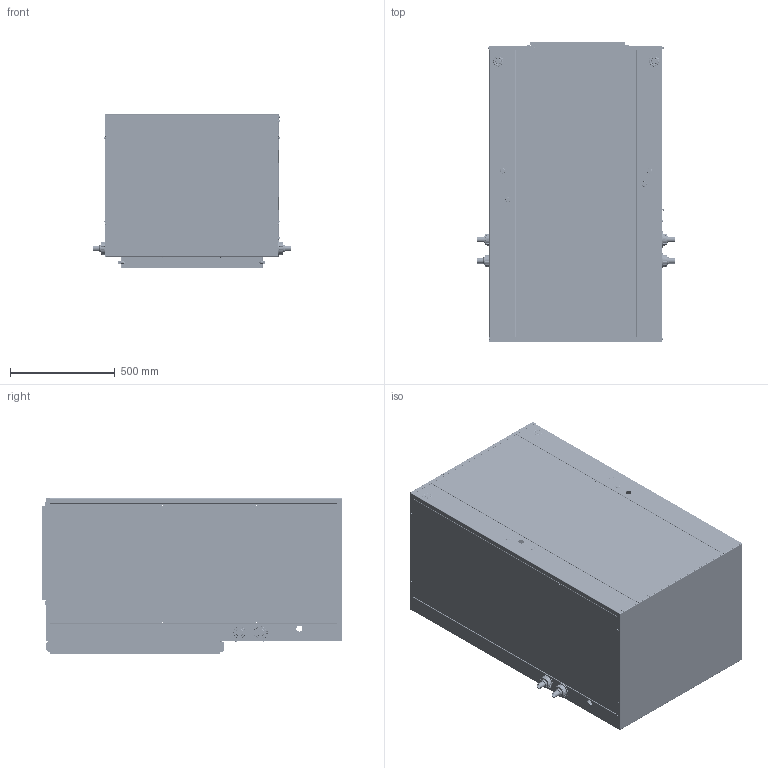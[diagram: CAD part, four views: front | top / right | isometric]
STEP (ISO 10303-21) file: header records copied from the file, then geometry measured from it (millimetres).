
FILE_DESCRIPTION (( 'STEP AP214' ), '1' );
FILE_NAME ('GV51S2.STEP', '2016-07-14T13:36:25', ( 'BMC' ), ( 'Bard Manufacturing Co., Inc.' ), 'SwSTEP 2.0', 'SolidWorks 2016', '' );
FILE_SCHEMA (( 'AUTOMOTIVE_DESIGN' ));
Length unit declared in the file: inch
Products named in the file (42): 120-437; 130-161_ISO; 148-110; 136-566; Fitting assembly; 148-111; 140-262; Cap; 108-219; 1012-086; Plug; end; Retaining Nut; GV51S2; side without hole; copper adapter; middle; water fitting; side with hole; plastic trim; 5021-1409_bent view; 100-530_2; 116-228; 164-591; 152-465; filter rack large; 144-186; 1171-053; 140-305; swell latch pin; 106-334; swell latch rubber washer; 104-1161; swell latch nut; 126-335; swell latch threaded shaft; 100-530; swell latch handle; 152-464; 130-159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
Assembly tree (99 placements, depth 4):
  GV51S2
    108-219
    148-111
    148-110
    120-437
    122-120
    152-464
    100-530
    126-335
    104-1161  x4
    106-334
    140-305  x2
    144-186  x2
    152-465
    116-228
    5021-1409_bent view
    side with hole
    middle
    side without hole
    end  x2
    1012-086  x46
    140-262  x2
    136-566  x2
    filter rack large  x2
      130-161_ISO
      130-158_ISO
      130-159
      1171-053
        swell latch handle
        swell latch threaded shaft
        swell latch nut
        swell latch rubber washer
        swell latch pin
    164-591
    100-530_2
    Fitting assembly  x4
      plastic trim
      water fitting
      copper adapter
      Retaining Nut
      Plug
      Cap
Bounding box: 945.5 x 1435.1 x 747.71 mm (x, y, z)
Surface area: 16180096.4 mm2 (no closed solid volume)
Topology: 0 solids, 127 shells, 6027 faces, 15293 edges, 9691 vertices
Faces by surface type: plane 2384, cylinder 1890, bspline 1233, cone 520
Entity records: 129349 total; most frequent: CARTESIAN_POINT 44752, ORIENTED_EDGE 15740, DIRECTION 14395, EDGE_CURVE 7870, AXIS2_PLACEMENT_3D 5304, VERTEX_POINT 5063, LINE 3787, VECTOR 3787
